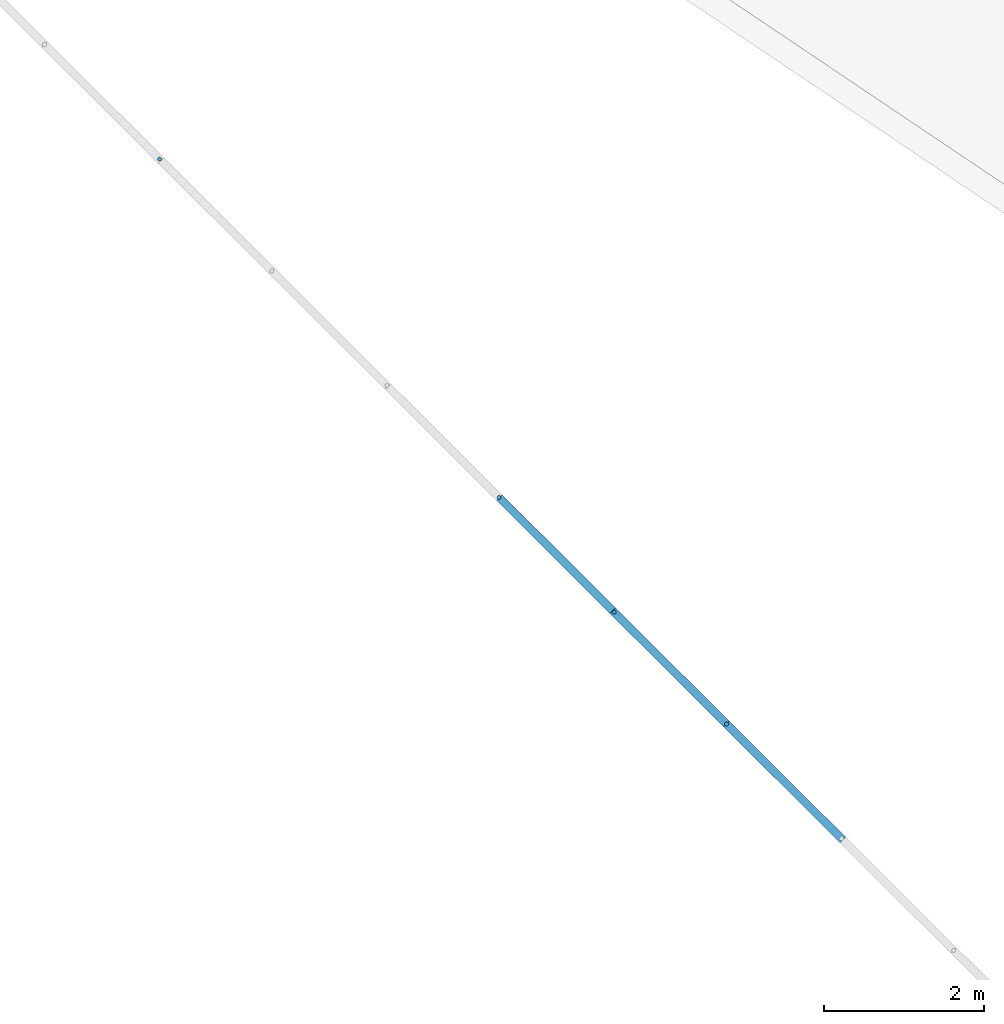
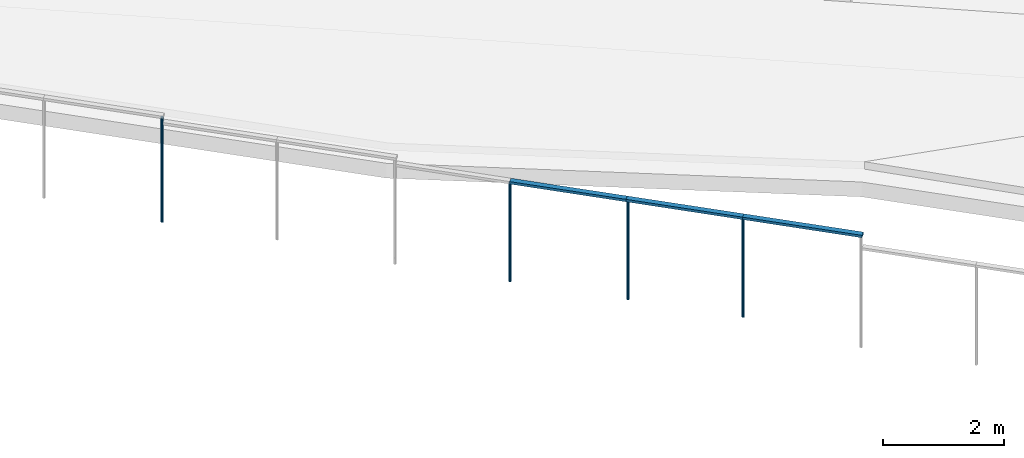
# One storey, part 4 of 33: 8 members, 4 elements without a shape of their own.
"""IFC2X3 building model written with IfcOpenShell, lengths in metres."""

from ifc_helpers import new_model, entity, si_unit, converted_unit, derived_unit, direction, frame, frame_2d, origin, origin_2d_with_axis, place, context, subcontext, project, spatial, rectangle, circle, extrude, source, transform, mapped, material, type_object, type_shapes, element, aggregate, save


model = new_model("IFC2X3")

# Units and contexts
model_context = context("Model", 3, precision=1e-05, world=origin(), true_north=direction((6.123031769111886e-17, 1.0)))
body_context = subcontext(model_context, "Body", "Model", "MODEL_VIEW")
ifc_project = project(units=[si_unit("LENGTHUNIT", "METRE"), si_unit("AREAUNIT", "SQUARE_METRE"), si_unit("VOLUMEUNIT", "CUBIC_METRE"), converted_unit("PLANEANGLEUNIT", "DEGREE", entity("IfcRatioMeasure", 0.017453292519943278), si_unit("PLANEANGLEUNIT", "RADIAN"), dimensions=[0, 0, 0, 0, 0, 0, 0]), si_unit("MASSUNIT", "GRAM", prefix="KILO"), derived_unit("MASSDENSITYUNIT", [(si_unit("MASSUNIT", "GRAM", prefix="KILO"), 1), (si_unit("LENGTHUNIT", "METRE"), -3)]), derived_unit("IONCONCENTRATIONUNIT", [(si_unit("MASSUNIT", "GRAM", prefix="KILO"), 1), (si_unit("LENGTHUNIT", "METRE"), -3)]), derived_unit("MOMENTOFINERTIAUNIT", [(si_unit("LENGTHUNIT", "METRE"), 4)]), si_unit("TIMEUNIT", "SECOND"), si_unit("FREQUENCYUNIT", "HERTZ"), si_unit("THERMODYNAMICTEMPERATUREUNIT", "DEGREE_CELSIUS"), derived_unit("THERMALTRANSMITTANCEUNIT", [(si_unit("MASSUNIT", "GRAM", prefix="KILO"), 1), (si_unit("THERMODYNAMICTEMPERATUREUNIT", "KELVIN"), -1), (si_unit("TIMEUNIT", "SECOND"), -3)]), derived_unit("THERMALCONDUCTANCEUNIT", [(si_unit("MASSUNIT", "GRAM", prefix="KILO"), 1), (si_unit("THERMODYNAMICTEMPERATUREUNIT", "KELVIN"), -1), (si_unit("TIMEUNIT", "SECOND"), -3), (si_unit("LENGTHUNIT", "METRE"), 1)]), derived_unit("VOLUMETRICFLOWRATEUNIT", [(si_unit("LENGTHUNIT", "METRE"), 3), (si_unit("TIMEUNIT", "SECOND"), -1)]), derived_unit("MASSFLOWRATEUNIT", [(si_unit("MASSUNIT", "GRAM", prefix="KILO"), 1), (si_unit("TIMEUNIT", "SECOND"), -1)]), derived_unit("ROTATIONALFREQUENCYUNIT", [(si_unit("TIMEUNIT", "SECOND"), -1)]), si_unit("ELECTRICCURRENTUNIT", "AMPERE"), si_unit("ELECTRICVOLTAGEUNIT", "VOLT"), si_unit("POWERUNIT", "WATT"), si_unit("FORCEUNIT", "NEWTON", prefix="KILO"), si_unit("ILLUMINANCEUNIT", "LUX"), si_unit("LUMINOUSFLUXUNIT", "LUMEN"), si_unit("LUMINOUSINTENSITYUNIT", "CANDELA"), derived_unit("USERDEFINED", [(si_unit("MASSUNIT", "GRAM", prefix="KILO"), -1), (si_unit("LENGTHUNIT", "METRE"), -2), (si_unit("TIMEUNIT", "SECOND"), 3), (si_unit("LUMINOUSFLUXUNIT", "LUMEN"), 1)]), derived_unit("USERDEFINED", [(si_unit("MASSUNIT", "GRAM", prefix="KILO"), 1), (si_unit("TIMEUNIT", "SECOND"), -3), (si_unit("LENGTHUNIT", "METRE"), 3), (si_unit("ELECTRICCURRENTUNIT", "AMPERE"), -2)]), derived_unit("SOUNDPOWERUNIT", [(si_unit("MASSUNIT", "GRAM", prefix="KILO"), 1), (si_unit("TIMEUNIT", "SECOND"), -3), (si_unit("LENGTHUNIT", "METRE"), 2)]), derived_unit("SOUNDPRESSUREUNIT", [(si_unit("MASSUNIT", "GRAM", prefix="KILO"), 1), (si_unit("LENGTHUNIT", "METRE"), -1), (si_unit("TIMEUNIT", "SECOND"), -2)]), derived_unit("LINEARVELOCITYUNIT", [(si_unit("LENGTHUNIT", "METRE"), 1), (si_unit("TIMEUNIT", "SECOND"), -1)]), si_unit("PRESSUREUNIT", "PASCAL"), derived_unit("USERDEFINED", [(si_unit("MASSUNIT", "GRAM", prefix="KILO"), 1), (si_unit("LENGTHUNIT", "METRE"), -2), (si_unit("TIMEUNIT", "SECOND"), -2)]), derived_unit("LINEARFORCEUNIT", [(si_unit("MASSUNIT", "GRAM", prefix="KILO"), 1), (si_unit("TIMEUNIT", "SECOND"), -2)]), derived_unit("PLANARFORCEUNIT", [(si_unit("MASSUNIT", "GRAM", prefix="KILO"), 1), (si_unit("LENGTHUNIT", "METRE"), -1), (si_unit("TIMEUNIT", "SECOND"), -2)]), derived_unit("SPECIFICHEATCAPACITYUNIT", [(si_unit("THERMODYNAMICTEMPERATUREUNIT", "KELVIN"), -1), (si_unit("LENGTHUNIT", "METRE"), 2), (si_unit("TIMEUNIT", "SECOND"), -2)]), derived_unit("HEATINGVALUEUNIT", [(si_unit("LENGTHUNIT", "METRE"), 2), (si_unit("TIMEUNIT", "SECOND"), -2)]), derived_unit("VAPORPERMEABILITYUNIT", [(si_unit("LENGTHUNIT", "METRE"), -1), (si_unit("TIMEUNIT", "SECOND"), 1)]), derived_unit("DYNAMICVISCOSITYUNIT", [(si_unit("MASSUNIT", "GRAM", prefix="KILO"), 1), (si_unit("TIMEUNIT", "SECOND"), -1), (si_unit("LENGTHUNIT", "METRE"), -1)]), derived_unit("THERMALEXPANSIONCOEFFICIENTUNIT", [(si_unit("THERMODYNAMICTEMPERATUREUNIT", "KELVIN"), -1)]), derived_unit("MODULUSOFELASTICITYUNIT", [(si_unit("MASSUNIT", "GRAM", prefix="KILO"), 1), (si_unit("LENGTHUNIT", "METRE"), -1), (si_unit("TIMEUNIT", "SECOND"), -2)]), derived_unit("ISOTHERMALMOISTURECAPACITYUNIT", [(si_unit("LENGTHUNIT", "METRE"), 3), (si_unit("MASSUNIT", "GRAM", prefix="KILO"), -1)]), derived_unit("MOISTUREDIFFUSIVITYUNIT", [(si_unit("TIMEUNIT", "SECOND"), -1), (si_unit("LENGTHUNIT", "METRE"), 2)])], contexts=[model_context])

# Site, building, storey
site_placement = place(None, origin())
site = spatial("IfcSite", under=ifc_project, at=site_placement, Name="Superficie", CompositionType="ELEMENT")
building_placement = place(site_placement, frame((0.0, 0.0, 235.0), z_axis=(0.0, 0.0, 1.0), x_axis=(-0.7996477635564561, 0.6004693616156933, 0.0)))
building = spatial("IfcBuilding", under=site, at=building_placement, CompositionType="ELEMENT")
storey_placement = place(building_placement, origin())
storey = spatial("IfcBuildingStorey", under=building, at=storey_placement, Name="P0- Escola", CompositionType="ELEMENT", Elevation=0.0)

# Curtain wall, member
curtain_wall_type = type_object("IfcCurtainWallType", Name="Muro cortina:SER EXT- Tanca exterior", PredefinedType="NOTDEFINED")
curtain_wall_1_placement = place(storey_placement, origin())
curtain_wall_1 = element("IfcCurtainWall", 1, at=curtain_wall_1_placement, inside=storey, type_object=curtain_wall_type, Name="Muro cortina:SER EXT- Tanca exterior", ObjectType="Muro cortina:SER EXT- Tanca exterior")
ifc_material_1 = material(Name="Acero inoxidable")
member_type_1 = type_object("IfcMemberType", Name="Montante circular:Perfil Tanca exterior", PredefinedType="MULLION", material=ifc_material_1)
shared_shape_1 = source(origin(), body_context, "Body", "SweptSolid", [
    extrude(circle(Radius=0.025, at=frame_2d((-2.1149748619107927e-18, -4.0388614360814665e-17), x_axis=(1.0, 0.0))), frame((0.0, 0.0, -2.0), z_axis=(0.0, 0.0, 1.0), x_axis=(-1.0, 0.0, 0.0)), (0.0, 0.0, 1.0), 1.9999999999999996),
])
type_shapes(member_type_1, [shared_shape_1])
member_1_placement = place(curtain_wall_1_placement, frame((36.9333521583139, -7.717913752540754, 1.97), z_axis=(0.0, 0.0, -1.0), x_axis=(0.9902804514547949, -0.1390849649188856, 0.0)))
member_1 = element("IfcMember", 2, at=member_1_placement, type_object=member_type_1, material=ifc_material_1, Name="Montante circular:Perfil Tanca exterior", ObjectType="Montante circular:Perfil Tanca exterior", context=body_context, shape_type="MappedRepresentation", body=[
    mapped(shared_shape_1, transform((0.0, 0.0, 0.0), scale=1.0)),
])

# Curtain wall, members
curtain_wall_2_placement = place(storey_placement, origin())
curtain_wall_2 = element("IfcCurtainWall", 3, at=curtain_wall_2_placement, inside=storey, type_object=curtain_wall_type, Name="Muro cortina:SER EXT- Tanca exterior", ObjectType="Muro cortina:SER EXT- Tanca exterior")
member_2_placement = place(curtain_wall_2_placement, frame((40.89447394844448, -8.274253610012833, 1.97), z_axis=(0.0, 0.0, -1.0), x_axis=(0.9902804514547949, -0.13908496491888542, 0.0)))
member_2 = element("IfcMember", 4, at=member_2_placement, type_object=member_type_1, material=ifc_material_1, Name="Montante circular:Perfil Tanca exterior", ObjectType="Montante circular:Perfil Tanca exterior", context=body_context, shape_type="MappedRepresentation", body=[
    mapped(shared_shape_1, transform((0.0, 0.0, 0.0), scale=1.0)),
])
member_type_2 = type_object("IfcMemberType", Name="Montante circular:Perfil Tanca exterior", PredefinedType="MULLION", material=ifc_material_1)
shared_shape_2 = source(origin(), body_context, "Body", "SweptSolid", [
    extrude(circle(Radius=0.025, at=frame_2d((-1.304992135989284e-31, 4.038861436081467e-17), x_axis=(1.0, 0.0))), frame((-0.025, 0.0, -2.0)), (0.0, 0.0, 1.0), 1.9999999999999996),
])
type_shapes(member_type_2, [shared_shape_2])
member_3_placement = place(curtain_wall_2_placement, frame((38.86439903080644, -7.989129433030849, 3.9699999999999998), z_axis=(0.0, 0.0, 1.0), x_axis=(-0.9902804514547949, 0.13908496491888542, 0.0)))
member_3 = element("IfcMember", 5, at=member_3_placement, type_object=member_type_2, material=ifc_material_1, Name="Montante circular:Perfil Tanca exterior", ObjectType="Montante circular:Perfil Tanca exterior", context=body_context, shape_type="MappedRepresentation", body=[
    mapped(shared_shape_2, transform((0.0, 0.0, 0.0), scale=1.0)),
])

# Curtain wall, member
curtain_wall_3_placement = place(storey_placement, origin())
curtain_wall_3 = element("IfcCurtainWall", 6, at=curtain_wall_3_placement, inside=storey, type_object=curtain_wall_type, Name="Muro cortina:SER EXT- Tanca exterior", ObjectType="Muro cortina:SER EXT- Tanca exterior")
member_4_placement = place(curtain_wall_3_placement, frame((46.78664261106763, -9.101809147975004, 4.22), z_axis=(0.0, 0.0, 1.0), x_axis=(-0.9902804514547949, 0.13908496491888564, 0.0)))
member_4 = element("IfcMember", 7, at=member_4_placement, type_object=member_type_2, material=ifc_material_1, Name="Montante circular:Perfil Tanca exterior", ObjectType="Montante circular:Perfil Tanca exterior", context=body_context, shape_type="MappedRepresentation", body=[
    mapped(shared_shape_2, transform((0.0, 0.0, 0.0), scale=1.0)),
])
aggregate(curtain_wall_3, [member_4])

# Member
ifc_material_2 = material(Name="_Formigó- Solera- T1- STR")
member_type_3 = type_object("IfcMemberType", Name="Montante rectangular:Montante rectangular 100x50", PredefinedType="MULLION", material=ifc_material_2)
shared_shape_3 = source(origin(), body_context, "Body", "SweptSolid", [
    extrude(rectangle(XDim=0.1, YDim=0.05000000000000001, at=origin_2d_with_axis()), frame((-0.025000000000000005, 0.0, -2.0499999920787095), z_axis=(0.0, 0.0, 1.0), x_axis=(0.0, -1.0, 0.0)), (0.0, 0.0, 1.0), 2.04999999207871),
])
type_shapes(member_type_3, [shared_shape_3])
member_5_placement = place(curtain_wall_1_placement, frame((36.9333521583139, -7.717913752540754, 4.02), z_axis=(0.9902804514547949, -0.13908496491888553, 0.0), x_axis=(0.0, 0.0, 1.0)))
member_5 = element("IfcMember", 8, at=member_5_placement, type_object=member_type_3, material=ifc_material_2, Name="Montante rectangular:Montante rectangular 100x50", ObjectType="Montante rectangular:Montante rectangular 100x50", context=body_context, shape_type="MappedRepresentation", body=[
    mapped(shared_shape_3, transform((0.0, 0.0, 0.0), scale=1.0)),
])

member_6_placement = place(curtain_wall_2_placement, frame((40.89447394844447, -8.274253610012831, 4.02), z_axis=(0.9902804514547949, -0.13908496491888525, 0.0), x_axis=(0.0, 0.0, 1.0)))
member_6 = element("IfcMember", 9, at=member_6_placement, type_object=member_type_3, material=ifc_material_2, Name="Montante rectangular:Montante rectangular 100x50", ObjectType="Montante rectangular:Montante rectangular 100x50", context=body_context, shape_type="MappedRepresentation", body=[
    mapped(shared_shape_3, transform((0.0, 0.0, 0.0), scale=1.0)),
])

aggregate(curtain_wall_2, [member_3, member_2, member_6])

# Curtain wall, member
curtain_wall_4_placement = place(storey_placement, origin())
curtain_wall_4 = element("IfcCurtainWall", 10, at=curtain_wall_4_placement, inside=storey, type_object=curtain_wall_type, Name="Muro cortina:SER EXT- Tanca exterior", ObjectType="Muro cortina:SER EXT- Tanca exterior")
member_type_4 = type_object("IfcMemberType", Name="Montante circular:Perfil Tanca exterior", PredefinedType="MULLION", material=ifc_material_1)
shared_shape_4 = source(origin(), body_context, "Body", "SweptSolid", [
    extrude(circle(Radius=0.025, at=frame_2d((1.3661718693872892e-31, -4.46185640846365e-17), x_axis=(1.0, 0.0))), frame((-0.025, 0.0, -2.0499999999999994), z_axis=(0.0, 0.0, 1.0), x_axis=(-1.0, 0.0, 0.0)), (0.0, 0.0, 1.0), 2.0499999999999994),
])
type_shapes(member_type_4, [shared_shape_4])
member_7_placement = place(curtain_wall_4_placement, frame((46.83615663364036, -9.108763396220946, 2.0949999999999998), z_axis=(0.0, 0.0, -1.0), x_axis=(0.9902804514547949, -0.1390849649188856, 0.0)))
member_7 = element("IfcMember", 11, at=member_7_placement, type_object=member_type_4, material=ifc_material_1, Name="Montante circular:Perfil Tanca exterior", ObjectType="Montante circular:Perfil Tanca exterior", context=body_context, shape_type="MappedRepresentation", body=[
    mapped(shared_shape_4, transform((0.0, 0.0, 0.0), scale=1.0)),
])
aggregate(curtain_wall_4, [member_7])

# Member
member_type_5 = type_object("IfcMemberType", Name="Montante rectangular:Montante rectangular 100x50", PredefinedType="MULLION", material=ifc_material_2)
shared_shape_5 = source(origin(), body_context, "Body", "SweptSolid", [
    extrude(rectangle(XDim=0.1, YDim=0.05000000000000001, at=origin_2d_with_axis()), frame((-0.025000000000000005, 0.0, -1.999999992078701), z_axis=(0.0, 0.0, 1.0), x_axis=(0.0, -1.0, 0.0)), (0.0, 0.0, 1.0), 1.9999999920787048),
])
type_shapes(member_type_5, [shared_shape_5])
member_8_placement = place(curtain_wall_1_placement, frame((38.91391305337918, -7.99608368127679, 4.02), z_axis=(0.9902804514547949, -0.13908496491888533, 0.0), x_axis=(0.0, 0.0, 1.0)))
member_8 = element("IfcMember", 12, at=member_8_placement, type_object=member_type_5, material=ifc_material_2, Name="Montante rectangular:Montante rectangular 100x50", ObjectType="Montante rectangular:Montante rectangular 100x50", context=body_context, shape_type="MappedRepresentation", body=[
    mapped(shared_shape_5, transform((0.0, 0.0, 0.0), scale=1.0)),
])

aggregate(curtain_wall_1, [member_1, member_8, member_5])

save(model, "model.ifc")
